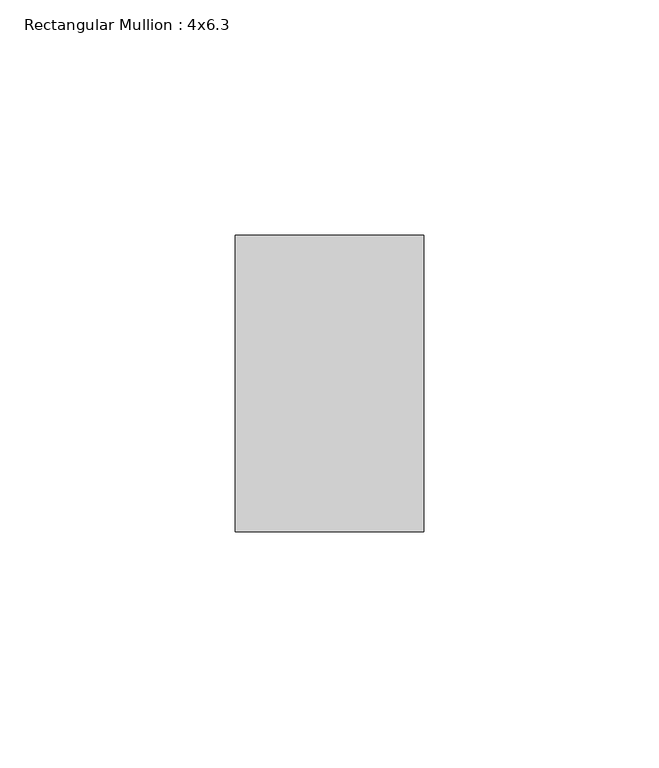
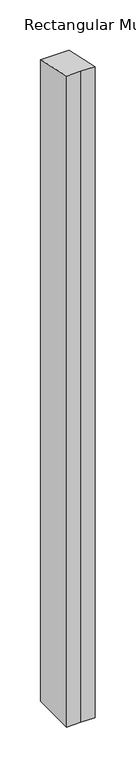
"""IFC4 building model written with IfcOpenShell, lengths in millimetres: member geometry, Rectangular Mullion : 4x6.3."""

from ifc_helpers import new_model, si_unit, origin, place, context, project, spatial, faceted_brep, source, transform, mapped, element, save


def rectangular_mullion_4x6_3_b1d813bc(model_context):
    return source(origin(), model_context, "Body", "Brep", [
        faceted_brep([(-20.0, 20.0, -974.2628281), (-20.0, 83.0, -974.2628281), (20.0, 83.0, -974.2628281), (20.0, 20.0, -974.2628281), (0.0, 20.0, -974.2628281), (0.0, 20.0, -4.3995804), (-20.0, 20.0, -4.3995804), (20.0, 20.0, -4.3995804), (20.0, 83.0, -18.2582585), (-20.0, 83.0, -18.2582585)], [[[0, 1, 2, 3, 4]], [[5, 6, 0, 4]], [[7, 5, 4, 3]], [[8, 7, 3, 2]], [[9, 8, 2, 1]], [[6, 9, 1, 0]], [[6, 5, 7, 8, 9]]]),
    ])


if __name__ == "__main__":
    model = new_model("IFC4")
    model_context = context("Model", 3, world=origin())
    ifc_project = project(units=[si_unit("LENGTHUNIT", "METRE", prefix="MILLI")], contexts=[model_context])
    site = spatial("IfcSite", under=ifc_project)
    building = spatial("IfcBuilding", under=site)
    placement = place(None, origin())
    rectangular_mullion_4x6_3_shape = rectangular_mullion_4x6_3_b1d813bc(model_context)
    element("IfcMember", 1, ObjectType="Rectangular Mullion : 4x6.3", at=placement, inside=building, context=model_context, shape_type="MappedRepresentation", body=[
        mapped(rectangular_mullion_4x6_3_shape, transform((0.0, 0.0, 0.0), x_axis=(1.0, 0.0, 0.0), y_axis=(0.0, 1.0, 0.0), z_axis=(0.0, 0.0, 1.0))),
    ])
    save(model, "model.ifc")
